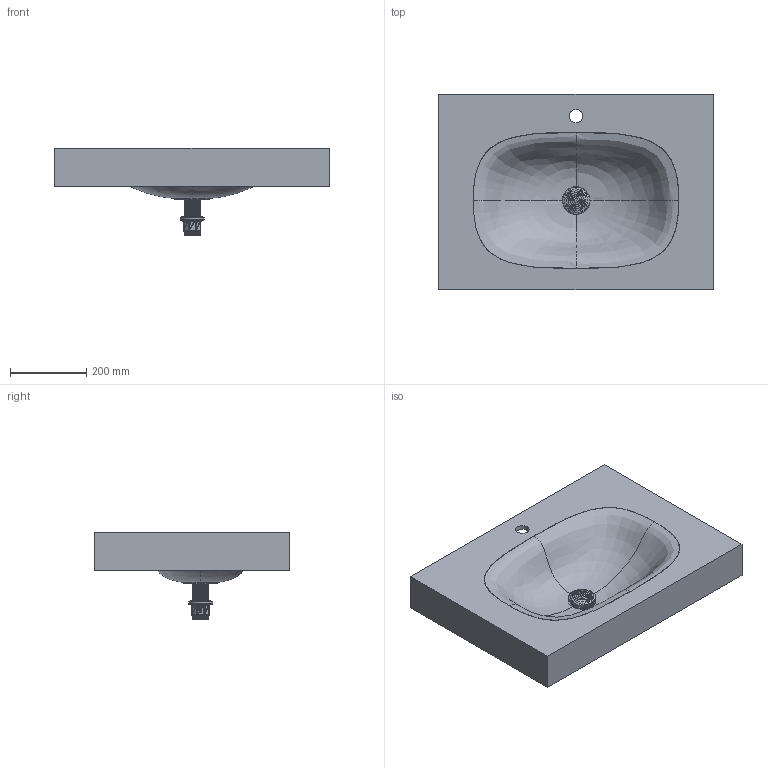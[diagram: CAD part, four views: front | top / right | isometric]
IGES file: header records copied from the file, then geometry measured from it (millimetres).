
Start section: Data from Parasolid IGES Translator 19.0.9, Copyright(c) 2006 Siemens PL M Software. All Rights Reserved.
Global section: file name: noorth-top-H 12 D 51,3 W 72_4200.igs; native system: By Siemens PLM Incorporated; preprocessor: XPlus GENERIC/IGES 19.0.9; author: Noname; organization: Noname; date: 20210914.114230; units: metre
Bounding box: 720 x 512 x 230.13 mm (x, y, z)
Volume: 4183810.6 mm3; surface area: 1248874 mm2
Topology: 1 solids, 1 shells, 11712 faces, 35256 edges, 35199 vertices
Faces by surface type: extrusion 11619, bspline 35, cylinder 29, plane 26, revolution 3
Full cylindrical faces by diameter (mm): 35 x1
